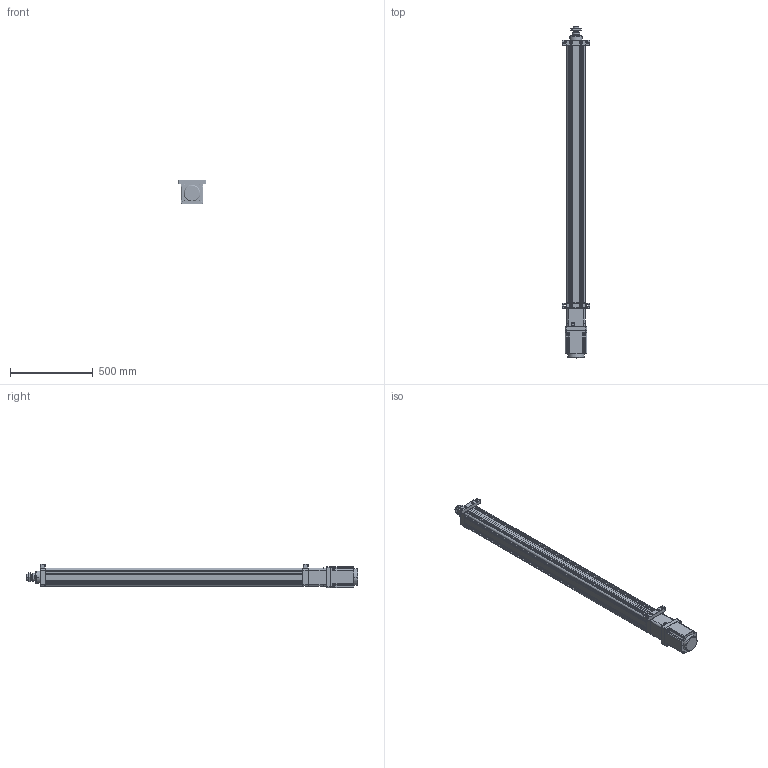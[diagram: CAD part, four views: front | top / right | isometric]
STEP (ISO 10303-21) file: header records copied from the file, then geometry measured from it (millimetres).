
FILE_DESCRIPTION((''),'2;1');
FILE_NAME('HE100-D-P_ASM','2020-05-06T',('ASUS20200'),(''),'CREO PARAMETRIC BY PTC INC, 2014190','CREO PARAMETRIC BY PTC INC, 2014190','');
FILE_SCHEMA(('CONFIG_CONTROL_DESIGN'));
Products named in the file (40): HE100-D-P-001-X1; HE100-D-P-002-X1; HE100-D-P-003-X1; 30305J; SFNHR03205B1-001-X1; SFNHR03205B1-002-X1; SFNHR03205B1-ST_ASM; HE100-D-P-004-X1; HE100-D-P-006-X1; HE100-D-P-007-X2; HE100-D-P-007-X1-2; M3X8-PB; HE100-D-P-HST_ASM; HE100-D-P-005-X1; TD-8; M8X30; LGLM-M10-25; K-M25X1-5P-36; JX6X6X30; JDB506030; HE80-D-P-008-X1; SLM-01; YZ-M6X1; HE100-GT2535-17; HE100-100-D-P-X1_ASM; HE100-D-009-X1; GFC-55-78-16K5; GFC-55-78-LJT; GFC-55-78-22K6; GFC-55-78-16K5-22K6_ASM; HE100-D-010-X1-130N; M8X20; 130ST-M10010; M8X40; SKT-20; HE100-P-015-X1; HE100-D-016-X1; TD-10; M10X35; HE100-D-P_ASM
Assembly tree (78 placements, depth 4):
  HE100-D-P_ASM
    HE100-100-D-P-X1_ASM
      HE100-D-P-001-X1
      HE100-D-P-002-X1
      HE100-D-P-003-X1
      30305J  x2
      SFNHR03205B1-ST_ASM
        SFNHR03205B1-001-X1
        SFNHR03205B1-002-X1
      HE100-D-P-HST_ASM
        HE100-D-P-004-X1
        HE100-D-P-006-X1
        HE100-D-P-007-X2
        HE100-D-P-007-X1-2
        M3X8-PB  x5
      HE100-D-P-005-X1
      TD-8  x6
      M8X30  x6
      LGLM-M10-25  x8
      K-M25X1-5P-36
      JX6X6X30
      JDB506030
      HE80-D-P-008-X1
      SLM-01
      YZ-M6X1
      HE100-GT2535-17
    HE100-D-009-X1
    GFC-55-78-16K5-22K6_ASM
      GFC-55-78-16K5
      GFC-55-78-LJT
      GFC-55-78-22K6
    HE100-D-010-X1-130N
    M8X20  x4
    130ST-M10010
    TD-8  x4
    M8X40  x4
    SKT-20  x2
    HE100-P-015-X1
    HE100-D-016-X1
    TD-10  x4
    M10X35  x4
Bounding box: 165 x 2011 x 145 mm (x, y, z)
Volume: 11771954.7 mm3; surface area: 3139991.5 mm2
Topology: 74 solids, 125 shells, 3317 faces, 7794 edges, 4750 vertices
Faces by surface type: plane 1097, cylinder 1023, cone 810, torus 262, sphere 90, bspline 35
Entity records: 81731 total; most frequent: CARTESIAN_POINT 22531, DIRECTION 13012, ORIENTED_EDGE 11460, EDGE_CURVE 5822, AXIS2_PLACEMENT_3D 5101, VERTEX_POINT 3556, EDGE_LOOP 2842, VECTOR 2810
